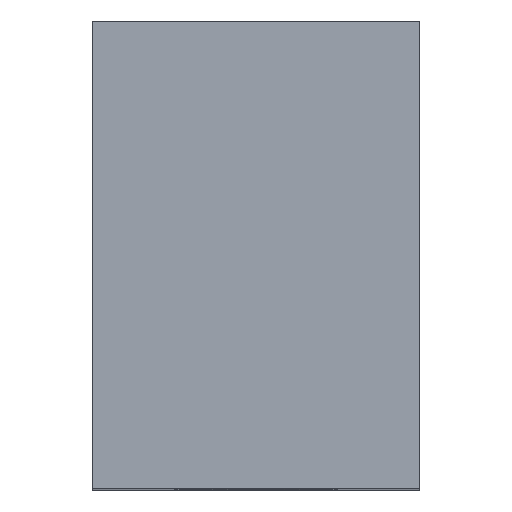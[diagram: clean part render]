
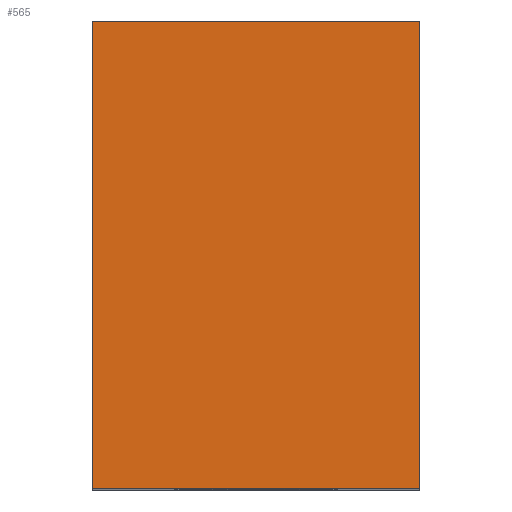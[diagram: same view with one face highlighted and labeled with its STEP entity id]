
A CAD part, top view. The second image highlights one B-rep face of the part: STEP entity #565.
In plain terms, the highlighted planar face has unit normal (0, 0, 1).
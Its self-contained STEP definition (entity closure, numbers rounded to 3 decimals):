
#40=PLANE('',#646);
#78=FACE_OUTER_BOUND('',#110,.T.);
#110=EDGE_LOOP('',(#489,#490,#491,#492));
#153=LINE('',#943,#200);
#156=LINE('',#949,#203);
#159=LINE('',#955,#206);
#162=LINE('',#959,#209);
#200=VECTOR('',#782,10.);
#203=VECTOR('',#787,10.);
#206=VECTOR('',#792,10.);
#209=VECTOR('',#797,10.);
#292=VERTEX_POINT('',#940);
#293=VERTEX_POINT('',#942);
#295=VERTEX_POINT('',#948);
#297=VERTEX_POINT('',#954);
#361=EDGE_CURVE('',#293,#292,#153,.T.);
#364=EDGE_CURVE('',#295,#293,#156,.T.);
#367=EDGE_CURVE('',#297,#295,#159,.T.);
#370=EDGE_CURVE('',#292,#297,#162,.T.);
#489=ORIENTED_EDGE('',*,*,#370,.T.);
#490=ORIENTED_EDGE('',*,*,#367,.T.);
#491=ORIENTED_EDGE('',*,*,#364,.T.);
#492=ORIENTED_EDGE('',*,*,#361,.T.);
#565=ADVANCED_FACE('',(#78),#40,.T.);
#646=AXIS2_PLACEMENT_3D('',#960,#798,#799);
#782=DIRECTION('',(0.,1.,0.));
#787=DIRECTION('',(1.,0.,0.));
#792=DIRECTION('',(0.,-1.,0.));
#797=DIRECTION('',(-1.,0.,0.));
#798=DIRECTION('center_axis',(0.,0.,1.));
#799=DIRECTION('ref_axis',(1.,0.,0.));
#940=CARTESIAN_POINT('',(17.49,24.99,38.));
#942=CARTESIAN_POINT('',(17.49,-24.99,38.));
#943=CARTESIAN_POINT('',(17.49,24.99,38.));
#948=CARTESIAN_POINT('',(-17.49,-24.99,38.));
#949=CARTESIAN_POINT('',(17.49,-24.99,38.));
#954=CARTESIAN_POINT('',(-17.49,24.99,38.));
#955=CARTESIAN_POINT('',(-17.49,-24.99,38.));
#959=CARTESIAN_POINT('',(-17.49,24.99,38.));
#960=CARTESIAN_POINT('Origin',(0.,0.,38.));
